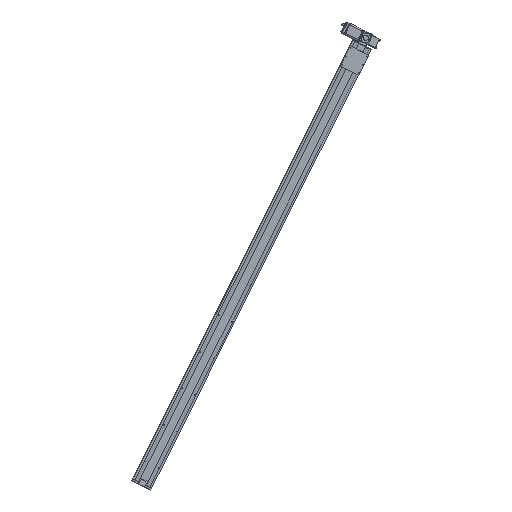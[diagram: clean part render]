
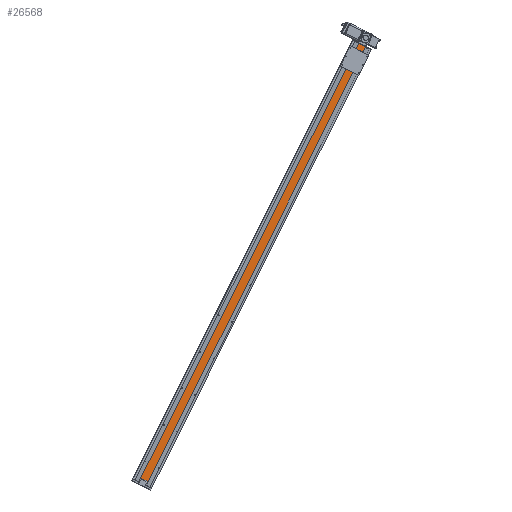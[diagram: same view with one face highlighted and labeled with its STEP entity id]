
A CAD part, front view. The second image highlights one B-rep face of the part: STEP entity #26568.
In plain terms, the highlighted planar face has unit normal (0.065, -0.998, -0.009) as drawn and (0, 1, 0) by its records, which use the part's own axes.
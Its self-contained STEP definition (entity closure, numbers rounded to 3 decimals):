
#2386 = DIRECTION ( 'NONE',  ( 0., 0., -1. ) ) ;
#2387 = VECTOR ( 'NONE', #2386, 1000. ) ;
#2392 = CARTESIAN_POINT ( 'NONE',  ( 20., 61.75, 2400. ) ) ;
#2393 = LINE ( 'NONE', #2392, #2387 ) ;
#2427 = CARTESIAN_POINT ( 'NONE',  ( -20., 61.75, 2400. ) ) ;
#2454 = DIRECTION ( 'NONE',  ( -1., 0., 0. ) ) ;
#2455 = VECTOR ( 'NONE', #2454, 1000. ) ;
#2456 = CARTESIAN_POINT ( 'NONE',  ( 20., 61.75, 0. ) ) ;
#2457 = LINE ( 'NONE', #2456, #2455 ) ;
#2460 = CARTESIAN_POINT ( 'NONE',  ( -20., 61.75, 0. ) ) ;
#2499 = FACE_OUTER_BOUND ( 'NONE', #26460, .T. ) ;
#2500 = AXIS2_PLACEMENT_3D ( 'NONE', #2512, #2558, #2557 ) ;
#2507 = CARTESIAN_POINT ( 'NONE',  ( 20., 61.75, 2400. ) ) ;
#2510 = PLANE ( 'NONE',  #2500 ) ;
#2512 = CARTESIAN_POINT ( 'NONE',  ( 20., 61.75, 2400. ) ) ;
#2535 = DIRECTION ( 'NONE',  ( -1., 0., 0. ) ) ;
#2536 = VECTOR ( 'NONE', #2535, 1000. ) ;
#2537 = CARTESIAN_POINT ( 'NONE',  ( 20., 61.75, 2400. ) ) ;
#2538 = LINE ( 'NONE', #2537, #2536 ) ;
#2547 = DIRECTION ( 'NONE',  ( 0., 0., -1. ) ) ;
#2548 = VECTOR ( 'NONE', #2547, 1000. ) ;
#2554 = CARTESIAN_POINT ( 'NONE',  ( -20., 61.75, 2400. ) ) ;
#2555 = LINE ( 'NONE', #2554, #2548 ) ;
#2557 = DIRECTION ( 'NONE',  ( 0., 0., -1. ) ) ;
#2558 = DIRECTION ( 'NONE',  ( 0., -1., 0. ) ) ;
#2831 = CARTESIAN_POINT ( 'NONE',  ( 20., 61.75, 5.114 ) ) ;
#2860 = DIRECTION ( 'NONE',  ( 0., 0., -1. ) ) ;
#2861 = VECTOR ( 'NONE', #2860, 1000. ) ;
#2862 = CARTESIAN_POINT ( 'NONE',  ( 20., 61.75, 2400. ) ) ;
#2866 = LINE ( 'NONE', #2862, #2861 ) ;
#2920 = CARTESIAN_POINT ( 'NONE',  ( 20., 61.75, 0. ) ) ;
#26460 = EDGE_LOOP ( 'NONE', ( #26479, #26575, #26503, #26499, #26528 ) ) ;
#26479 = ORIENTED_EDGE ( 'NONE', *, *, #26523, .T. ) ;
#26493 = EDGE_CURVE ( 'NONE', #26570, #26769, #2393, .T. ) ;
#26499 = ORIENTED_EDGE ( 'NONE', *, *, #26493, .T. ) ;
#26503 = ORIENTED_EDGE ( 'NONE', *, *, #26576, .F. ) ;
#26521 = VERTEX_POINT ( 'NONE', #2427 ) ;
#26523 = EDGE_CURVE ( 'NONE', #26838, #26524, #2457, .T. ) ;
#26524 = VERTEX_POINT ( 'NONE', #2460 ) ;
#26528 = ORIENTED_EDGE ( 'NONE', *, *, #26801, .T. ) ;
#26568 = ADVANCED_FACE ( 'NONE', ( #2499 ), #2510, .F. ) ;
#26570 = VERTEX_POINT ( 'NONE', #2507 ) ;
#26572 = EDGE_CURVE ( 'NONE', #26521, #26524, #2555, .T. ) ;
#26575 = ORIENTED_EDGE ( 'NONE', *, *, #26572, .F. ) ;
#26576 = EDGE_CURVE ( 'NONE', #26570, #26521, #2538, .T. ) ;
#26769 = VERTEX_POINT ( 'NONE', #2831 ) ;
#26801 = EDGE_CURVE ( 'NONE', #26769, #26838, #2866, .T. ) ;
#26838 = VERTEX_POINT ( 'NONE', #2920 ) ;
